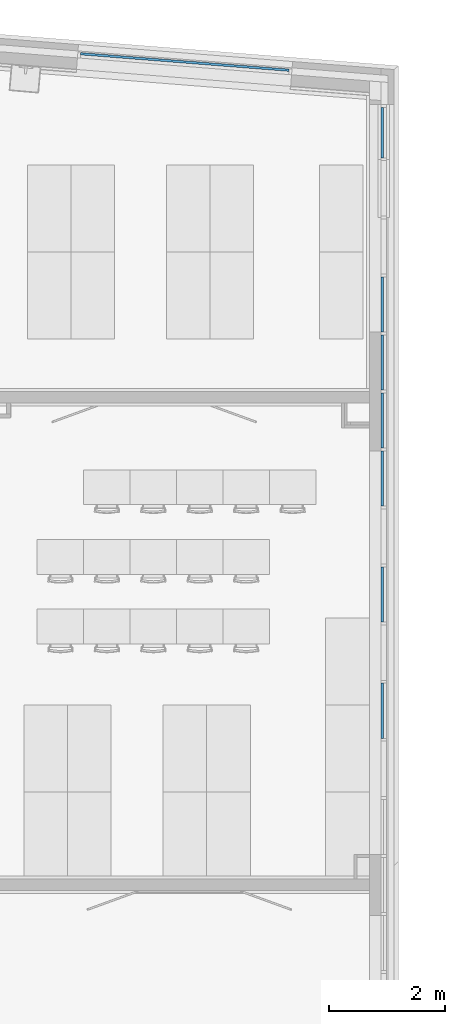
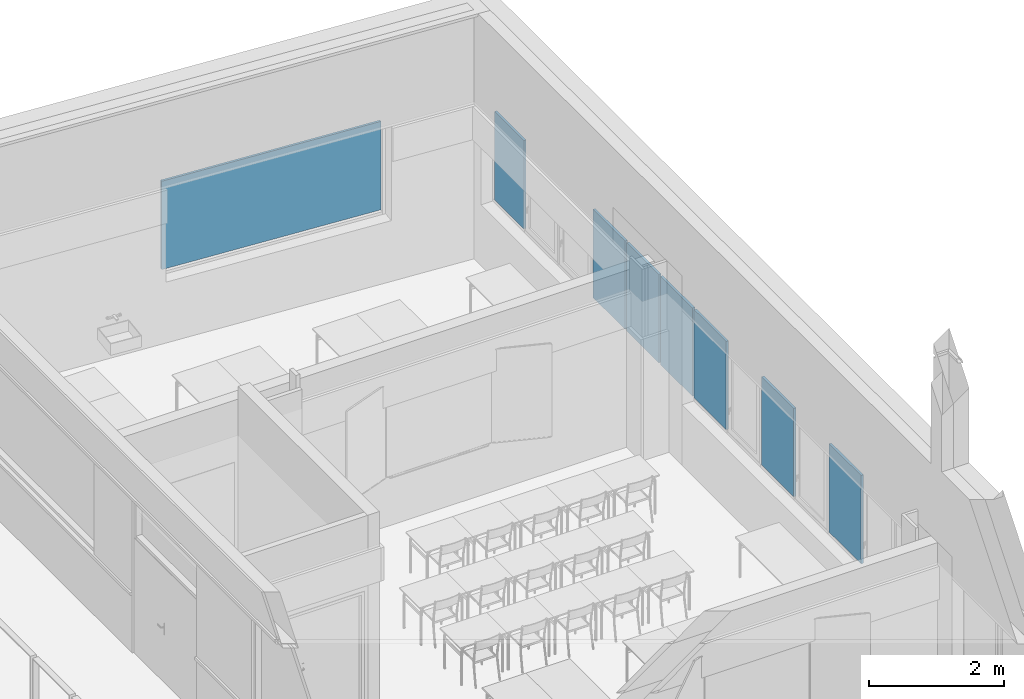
# One storey, part 32 of 137: 8 plates, 2 elements without a shape of their own.
"""IFC2X3 building model written with IfcOpenShell, lengths in centimetres."""

from ifc_helpers import new_model, entity, si_unit, converted_unit, derived_unit, direction, frame, frame_2d, origin, origin_2d_with_axis, place, context, subcontext, project, spatial, rectangle, extrude, source, transform, mapped, material, type_object, type_shapes, element, aggregate, save


model = new_model("IFC2X3")

# Units and contexts
model_context = context("Model", 3, precision=0.001, world=origin(), true_north=direction((6.12303176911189e-17, 1.0)))
body_context = subcontext(model_context, "Body", "Model", "MODEL_VIEW")
ifc_project = project(units=[si_unit("LENGTHUNIT", "METRE", prefix="CENTI"), si_unit("AREAUNIT", "SQUARE_METRE"), si_unit("VOLUMEUNIT", "CUBIC_METRE"), converted_unit("PLANEANGLEUNIT", "DEGREE", entity("IfcRatioMeasure", 0.0174532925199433), si_unit("PLANEANGLEUNIT", "RADIAN"), dimensions=[0, 0, 0, 0, 0, 0, 0]), si_unit("MASSUNIT", "GRAM", prefix="KILO"), si_unit("TIMEUNIT", "SECOND"), si_unit("FREQUENCYUNIT", "HERTZ"), si_unit("THERMODYNAMICTEMPERATUREUNIT", "DEGREE_CELSIUS"), derived_unit("THERMALTRANSMITTANCEUNIT", [(si_unit("MASSUNIT", "GRAM", prefix="KILO"), 1), (si_unit("THERMODYNAMICTEMPERATUREUNIT", "KELVIN"), -1), (si_unit("TIMEUNIT", "SECOND"), -3)]), derived_unit("VOLUMETRICFLOWRATEUNIT", [(si_unit("LENGTHUNIT", "METRE"), 3), (si_unit("TIMEUNIT", "SECOND"), -1)]), si_unit("ELECTRICCURRENTUNIT", "AMPERE"), si_unit("ELECTRICVOLTAGEUNIT", "VOLT"), si_unit("POWERUNIT", "WATT"), si_unit("FORCEUNIT", "NEWTON", prefix="KILO"), si_unit("ILLUMINANCEUNIT", "LUX"), si_unit("LUMINOUSFLUXUNIT", "LUMEN"), si_unit("LUMINOUSINTENSITYUNIT", "CANDELA"), derived_unit("USERDEFINED", [(si_unit("MASSUNIT", "GRAM", prefix="KILO"), -1), (si_unit("LENGTHUNIT", "METRE"), -2), (si_unit("TIMEUNIT", "SECOND"), 3), (si_unit("LUMINOUSFLUXUNIT", "LUMEN"), 1)]), derived_unit("LINEARVELOCITYUNIT", [(si_unit("LENGTHUNIT", "METRE"), 1), (si_unit("TIMEUNIT", "SECOND"), -1)]), si_unit("PRESSUREUNIT", "PASCAL"), derived_unit("USERDEFINED", [(si_unit("LENGTHUNIT", "METRE"), -2), (si_unit("MASSUNIT", "GRAM", prefix="KILO"), 1), (si_unit("TIMEUNIT", "SECOND"), -2)])], contexts=[model_context])

# Site, building, storey
site_placement = place(None, frame((8.62739174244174, -249.285249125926, 0.0)))
site = spatial("IfcSite", under=ifc_project, at=site_placement, Name="Default", CompositionType="ELEMENT")
building_placement = place(site_placement, origin())
building = spatial("IfcBuilding", under=site, at=building_placement, CompositionType="ELEMENT")
storey_placement = place(building_placement, origin())
storey = spatial("IfcBuildingStorey", under=building, at=storey_placement, Name="RDC", CompositionType="ELEMENT", Elevation=-8.82465566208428e-11)

# Curtain wall, plates
curtain_wall_type = type_object("IfcCurtainWallType", Name="Mur-rideau:Simple panneau", PredefinedType="NOTDEFINED")
curtain_wall_1_placement = place(storey_placement, origin())
curtain_wall_1 = element("IfcCurtainWall", 1, at=curtain_wall_1_placement, inside=storey, type_object=curtain_wall_type, Name="Mur-rideau:Simple panneau", ObjectType="Mur-rideau:Simple panneau")
ifc_material_1 = material(Name="Verre")
plate_type_1 = type_object("IfcPlateType", Name="Vitré", PredefinedType="CURTAIN_PANEL", material=ifc_material_1)
shared_shape_1 = source(origin(), body_context, "Body", "SweptSolid", [
    extrude(rectangle(XDim=4.0, YDim=86.9091609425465, at=origin_2d_with_axis()), frame((0.0, -2.50000000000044, 0.0), z_axis=(0.0, 0.0, 1.0), x_axis=(0.0, 1.0, 0.0)), (0.0, 0.0, 1.0), 160.0),
])
type_shapes(plate_type_1, [shared_shape_1])
plate_1_placement = place(curtain_wall_1_placement, frame((4003.90482781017, 7400.93478861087, 115.0), z_axis=(0.0, 0.0, 1.0), x_axis=(0.0, -1.0, 0.0)))
plate_1 = element("IfcPlate", 2, at=plate_1_placement, type_object=plate_type_1, material=ifc_material_1, Name="Panneau système:Vitré", ObjectType="Vitré", context=body_context, shape_type="MappedRepresentation", body=[
    mapped(shared_shape_1, transform((0.0, 0.0, 0.0), scale=1.0)),
])
plate_type_2 = type_object("IfcPlateType", Name="Vitré", PredefinedType="CURTAIN_PANEL", material=ifc_material_1)
shared_shape_2 = source(origin(), body_context, "Body", "SweptSolid", [
    extrude(rectangle(XDim=4.0, YDim=94.9999999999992, at=origin_2d_with_axis()), frame((0.0, -2.49999999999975, 0.0), z_axis=(0.0, 0.0, 1.0), x_axis=(0.0, 1.0, 0.0)), (0.0, 0.0, 1.0), 160.0),
])
type_shapes(plate_type_2, [shared_shape_2])
plate_2_placement = place(curtain_wall_1_placement, frame((4003.90482781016, 7104.9802081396, 115.0), z_axis=(0.0, 0.0, 1.0), x_axis=(0.0, -1.0, 0.0)))
plate_2 = element("IfcPlate", 3, at=plate_2_placement, type_object=plate_type_2, material=ifc_material_1, Name="Panneau système:Vitré", ObjectType="Vitré", context=body_context, shape_type="MappedRepresentation", body=[
    mapped(shared_shape_2, transform((0.0, 0.0, 0.0), scale=1.0)),
])
plate_3_placement = place(curtain_wall_1_placement, frame((4003.90482781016, 6804.9802081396, 115.0), z_axis=(0.0, 0.0, 1.0), x_axis=(0.0, -1.0, 0.0)))
plate_3 = element("IfcPlate", 4, at=plate_3_placement, type_object=plate_type_2, material=ifc_material_1, Name="Panneau système:Vitré", ObjectType="Vitré", context=body_context, shape_type="MappedRepresentation", body=[
    mapped(shared_shape_2, transform((0.0, 0.0, 0.0), scale=1.0)),
])
plate_4_placement = place(curtain_wall_1_placement, frame((4003.90482781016, 6604.9802081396, 115.0), z_axis=(0.0, 0.0, 1.0), x_axis=(0.0, -1.0, 0.0)))
plate_4 = element("IfcPlate", 5, at=plate_4_placement, type_object=plate_type_2, material=ifc_material_1, Name="Panneau système:Vitré", ObjectType="Vitré", context=body_context, shape_type="MappedRepresentation", body=[
    mapped(shared_shape_2, transform((0.0, 0.0, 0.0), scale=1.0)),
])
plate_5_placement = place(curtain_wall_1_placement, frame((4003.90482781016, 6404.9802081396, 115.0), z_axis=(0.0, 0.0, 1.0), x_axis=(0.0, -1.0, 0.0)))
plate_5 = element("IfcPlate", 6, at=plate_5_placement, type_object=plate_type_2, material=ifc_material_1, Name="Panneau système:Vitré", ObjectType="Vitré", context=body_context, shape_type="MappedRepresentation", body=[
    mapped(shared_shape_2, transform((0.0, 0.0, 0.0), scale=1.0)),
])
ifc_material_2 = material(Name="Par défaut")
plate_type_3 = type_object("IfcPlateType", Name="Plein", PredefinedType="CURTAIN_PANEL", material=ifc_material_2)
shared_shape_3 = source(origin(), body_context, "Body", "SweptSolid", [
    extrude(rectangle(XDim=4.0, YDim=95.0000000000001, at=origin_2d_with_axis()), frame((0.0, -2.50000000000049, 0.0), z_axis=(0.0, 0.0, 1.0), x_axis=(0.0, 1.0, 0.0)), (0.0, 0.0, 1.0), 160.0),
])
type_shapes(plate_type_3, [shared_shape_3])
plate_6_placement = place(curtain_wall_1_placement, frame((4003.90482781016, 7004.9802081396, 115.0), z_axis=(0.0, 0.0, 1.0), x_axis=(0.0, -1.0, 0.0)))
plate_6 = element("IfcPlate", 7, at=plate_6_placement, type_object=plate_type_3, material=ifc_material_2, Name="Panneau système:Plein", ObjectType="Plein", context=body_context, shape_type="MappedRepresentation", body=[
    mapped(shared_shape_3, transform((0.0, 0.0, 0.0), scale=1.0)),
])
plate_7_placement = place(curtain_wall_1_placement, frame((4003.90482781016, 6904.9802081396, 115.0), z_axis=(0.0, 0.0, 1.0), x_axis=(0.0, -1.0, 0.0)))
plate_7 = element("IfcPlate", 8, at=plate_7_placement, type_object=plate_type_3, material=ifc_material_2, Name="Panneau système:Plein", ObjectType="Plein", context=body_context, shape_type="MappedRepresentation", body=[
    mapped(shared_shape_3, transform((0.0, 0.0, 0.0), scale=1.0)),
])
aggregate(curtain_wall_1, [plate_1, plate_2, plate_6, plate_7, plate_3, plate_4, plate_5])

# Curtain wall, plate
curtain_wall_2_placement = place(storey_placement, origin())
curtain_wall_2 = element("IfcCurtainWall", 9, at=curtain_wall_2_placement, inside=storey, type_object=curtain_wall_type, Name="Mur-rideau:Simple panneau", ObjectType="Mur-rideau:Simple panneau")
plate_type_4 = type_object("IfcPlateType", Name="Vitré", PredefinedType="CURTAIN_PANEL", material=ifc_material_1)
shared_shape_4 = source(origin(), body_context, "Body", "SweptSolid", [
    extrude(rectangle(XDim=4.0, YDim=360.0, at=frame_2d((-4.44089209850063e-16, -2.8421709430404e-14), x_axis=(1.0, 0.0))), frame((0.0, 2.5, 0.0), z_axis=(0.0, 0.0, 1.0), x_axis=(0.0, 1.0, 0.0)), (0.0, 0.0, 1.0), 160.0),
])
type_shapes(plate_type_4, [shared_shape_4])
plate_8_placement = place(curtain_wall_2_placement, frame((3661.0103834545, 7520.02064519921, 115.0), z_axis=(0.0, 0.0, 1.0), x_axis=(0.996888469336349, -0.078824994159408, 0.0)))
plate_8 = element("IfcPlate", 10, at=plate_8_placement, type_object=plate_type_4, material=ifc_material_1, Name="Panneau système:Vitré", ObjectType="Vitré", context=body_context, shape_type="MappedRepresentation", body=[
    mapped(shared_shape_4, transform((0.0, 0.0, 0.0), scale=1.0)),
])
aggregate(curtain_wall_2, [plate_8])

save(model, "model.ifc")
